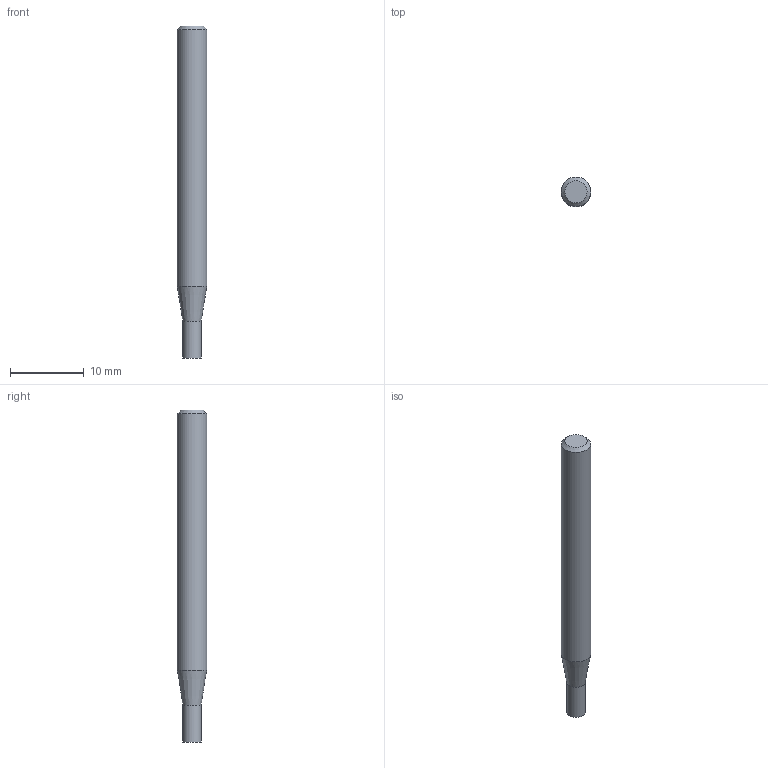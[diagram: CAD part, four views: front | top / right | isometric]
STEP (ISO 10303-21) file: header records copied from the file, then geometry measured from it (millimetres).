
FILE_DESCRIPTION((''),'2;1');
FILE_NAME('C:\Users\nsx150\AppData\Local\Temp\Mastercam 2021\W9Z147XDNF\TEMP.step','2021-04-08T14:29:55',(''),(''),'STEP Write','Mastercam 2021 ... CNC Software, Inc.','');
FILE_SCHEMA(('AUTOMOTIVE_DESIGN'));
Length unit declared in the file: millimetre
Products named in the file (1): None
Bounding box: 4 x 4 x 45 mm (x, y, z)
Volume: 506.2 mm3; surface area: 554.7 mm2
Topology: 2 solids, 2 shells, 8 faces, 10 edges, 6 vertices
Faces by surface type: plane 4, cylinder 2, cone 2
Full cylindrical faces by diameter (mm): 2.5 x1, 4 x1
Entity records: 190 total; most frequent: DIRECTION 32, CARTESIAN_POINT 22, AXIS2_PLACEMENT_3D 16, ORIENTED_EDGE 12, EDGE_LOOP 12, STYLED_ITEM 11, ADVANCED_FACE 8, VERTEX_POINT 6
